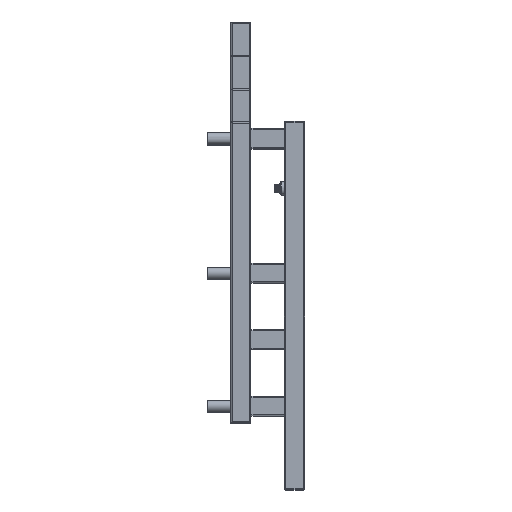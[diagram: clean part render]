
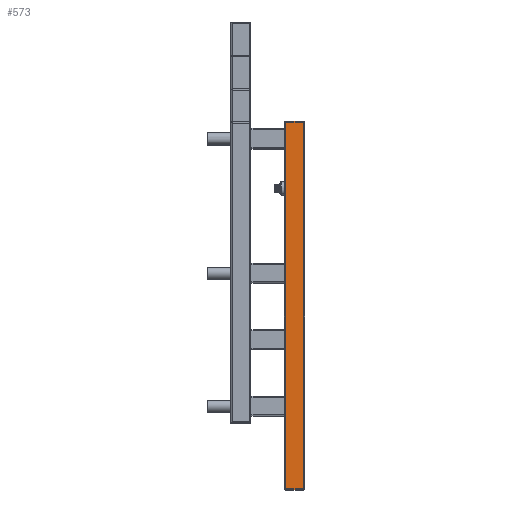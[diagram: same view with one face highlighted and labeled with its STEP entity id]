
A CAD part, top view. The second image highlights one B-rep face of the part: STEP entity #573.
In plain terms, the highlighted planar face has unit normal (0, 0, 1).
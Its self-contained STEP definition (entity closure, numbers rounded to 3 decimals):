
#573 = ADVANCED_FACE( '', ( #869 ), #870, .F. );
#869 = FACE_OUTER_BOUND( '', #1213, .T. );
#870 = PLANE( '', #1214 );
#1213 = EDGE_LOOP( '', ( #1749, #1750, #1751, #1752 ) );
#1214 = AXIS2_PLACEMENT_3D( '', #1753, #1754, #1755 );
#1749 = ORIENTED_EDGE( '', *, *, #2781, .T. );
#1750 = ORIENTED_EDGE( '', *, *, #2782, .T. );
#1751 = ORIENTED_EDGE( '', *, *, #2783, .F. );
#1752 = ORIENTED_EDGE( '', *, *, #2784, .T. );
#1753 = CARTESIAN_POINT( '', ( 15., -275., 25. ) );
#1754 = DIRECTION( '', ( 0., 0., -1. ) );
#1755 = DIRECTION( '', ( -1., 0., 0. ) );
#2781 = EDGE_CURVE( '', #3222, #3223, #3224, .T. );
#2782 = EDGE_CURVE( '', #3223, #3225, #3226, .F. );
#2783 = EDGE_CURVE( '', #3227, #3225, #3228, .T. );
#2784 = EDGE_CURVE( '', #3227, #3222, #3229, .T. );
#3222 = VERTEX_POINT( '', #3850 );
#3223 = VERTEX_POINT( '', #3851 );
#3224 = LINE( '', #3852, #3853 );
#3225 = VERTEX_POINT( '', #3854 );
#3226 = LINE( '', #3855, #3856 );
#3227 = VERTEX_POINT( '', #3857 );
#3228 = LINE( '', #3858, #3859 );
#3229 = LINE( '', #3860, #3861 );
#3850 = CARTESIAN_POINT( '', ( 13., 275., 25. ) );
#3851 = CARTESIAN_POINT( '', ( -13., 275., 25. ) );
#3852 = CARTESIAN_POINT( '', ( 15., 275., 25. ) );
#3853 = VECTOR( '', #5618, 1000. );
#3854 = CARTESIAN_POINT( '', ( -13., -275., 25. ) );
#3855 = CARTESIAN_POINT( '', ( -13., -275., 25. ) );
#3856 = VECTOR( '', #5619, 1000. );
#3857 = CARTESIAN_POINT( '', ( 13., -275., 25. ) );
#3858 = CARTESIAN_POINT( '', ( 15., -275., 25. ) );
#3859 = VECTOR( '', #5620, 1000. );
#3860 = CARTESIAN_POINT( '', ( 13., -275., 25. ) );
#3861 = VECTOR( '', #5621, 1000. );
#5618 = DIRECTION( '', ( -1., 0., 0. ) );
#5619 = DIRECTION( '', ( 0., 1., 0. ) );
#5620 = DIRECTION( '', ( -1., 0., 0. ) );
#5621 = DIRECTION( '', ( 0., 1., 0. ) );
